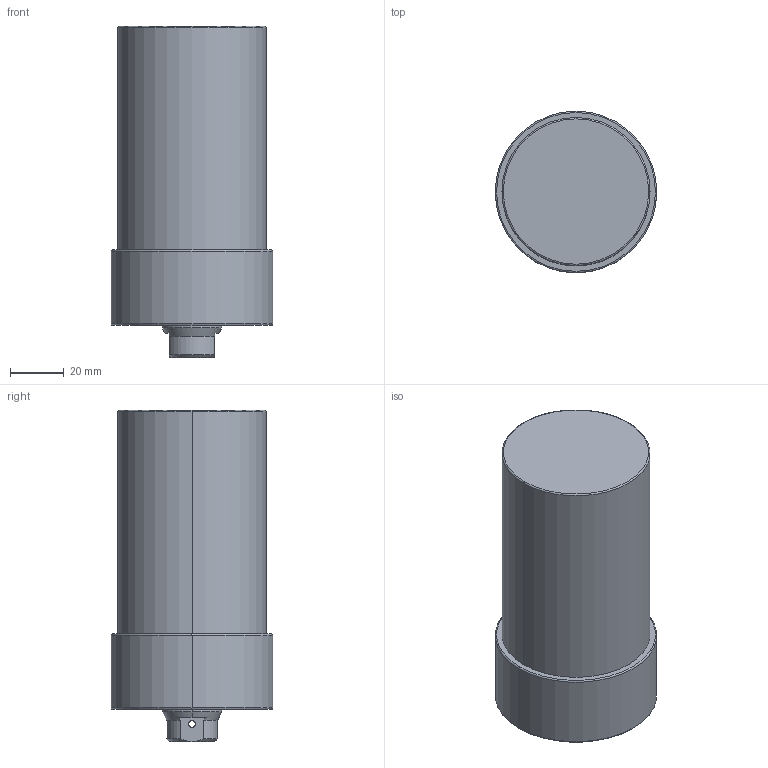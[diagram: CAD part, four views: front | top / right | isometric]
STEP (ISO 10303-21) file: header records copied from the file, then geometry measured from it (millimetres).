
FILE_DESCRIPTION (( 'STEP AP203' ), '1' );
FILE_NAME ('CLLU055-CB-070.STEP', '2017-05-12T11:26:45', ( '' ), ( '' ), 'SwSTEP 2.0', 'SolidWorks 2015', '' );
FILE_SCHEMA (( 'CONFIG_CONTROL_DESIGN' ));
Length unit declared in the file: millimetre
Products named in the file (1): CLLU055-CB-070
Bounding box: 60 x 60 x 123 mm (x, y, z)
Volume: 276652.7 mm3; surface area: 27712.5 mm2
Topology: 1 solids, 1 shells, 66 faces, 152 edges, 85 vertices
Faces by surface type: cylinder 26, cone 24, plane 10, torus 6
Entity records: 1971 total; most frequent: CARTESIAN_POINT 414, DIRECTION 340, ORIENTED_EDGE 284, AXIS2_PLACEMENT_3D 143, EDGE_CURVE 142, VERTEX_POINT 85, EDGE_LOOP 77, CIRCLE 76
